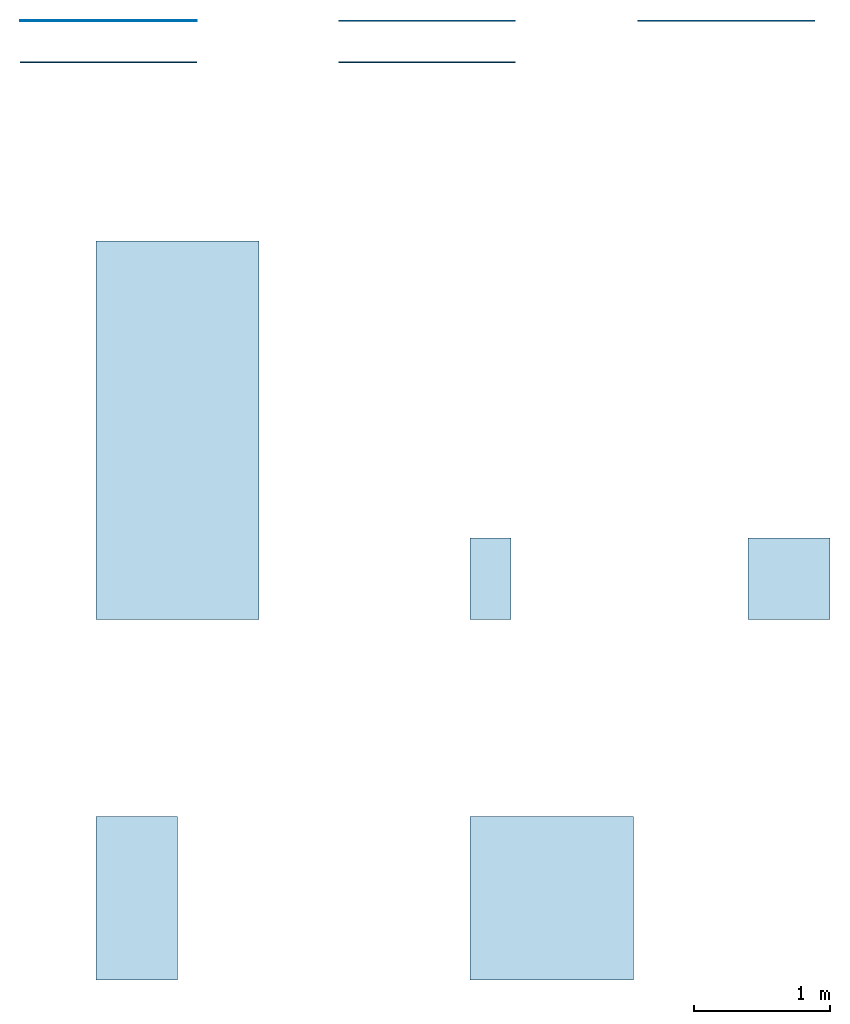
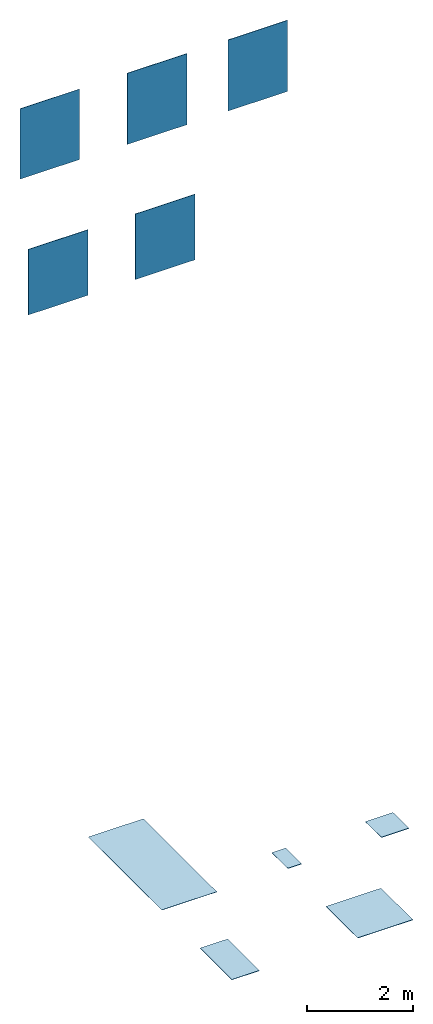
# One storey: 5 slabs, 5 walls.
"""IFC2X3 building model written with IfcOpenShell, lengths in millimetres."""

from ifc_helpers import new_model, entity, si_unit, converted_unit, derived_unit, direction, frame, frame_2d, origin, origin_2d_with_axis, place, context, subcontext, project, spatial, rectangle, extrude, material, layer, layer_set, layer_usage, type_object, element, save


model = new_model("IFC2X3")

# Units and contexts
model_context = context("Model", 3, precision=0.01, world=origin(), true_north=direction((6.12303176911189e-17, 1.0)))
body_context = subcontext(model_context, "Body", "Model", "MODEL_VIEW")
ifc_project = project(units=[si_unit("LENGTHUNIT", "METRE", prefix="MILLI"), si_unit("AREAUNIT", "SQUARE_METRE"), si_unit("VOLUMEUNIT", "CUBIC_METRE"), converted_unit("PLANEANGLEUNIT", "DEGREE", entity("IfcRatioMeasure", 0.0174532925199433), si_unit("PLANEANGLEUNIT", "RADIAN"), dimensions=[0, 0, 0, 0, 0, 0, 0]), si_unit("MASSUNIT", "GRAM", prefix="KILO"), derived_unit("MASSDENSITYUNIT", [(si_unit("MASSUNIT", "GRAM", prefix="KILO"), 1), (si_unit("LENGTHUNIT", "METRE"), -3)]), derived_unit("MOMENTOFINERTIAUNIT", [(si_unit("LENGTHUNIT", "METRE"), 4)]), si_unit("TIMEUNIT", "SECOND"), si_unit("FREQUENCYUNIT", "HERTZ"), si_unit("THERMODYNAMICTEMPERATUREUNIT", "DEGREE_CELSIUS"), derived_unit("THERMALTRANSMITTANCEUNIT", [(si_unit("MASSUNIT", "GRAM", prefix="KILO"), 1), (si_unit("THERMODYNAMICTEMPERATUREUNIT", "KELVIN"), -1), (si_unit("TIMEUNIT", "SECOND"), -3)]), derived_unit("VOLUMETRICFLOWRATEUNIT", [(si_unit("LENGTHUNIT", "METRE"), 3), (si_unit("TIMEUNIT", "SECOND"), -1)]), si_unit("ELECTRICCURRENTUNIT", "AMPERE"), si_unit("ELECTRICVOLTAGEUNIT", "VOLT"), si_unit("POWERUNIT", "WATT"), si_unit("FORCEUNIT", "NEWTON", prefix="KILO"), si_unit("ILLUMINANCEUNIT", "LUX"), si_unit("LUMINOUSFLUXUNIT", "LUMEN"), si_unit("LUMINOUSINTENSITYUNIT", "CANDELA"), derived_unit("USERDEFINED", [(si_unit("MASSUNIT", "GRAM", prefix="KILO"), -1), (si_unit("LENGTHUNIT", "METRE"), -2), (si_unit("TIMEUNIT", "SECOND"), 3), (si_unit("LUMINOUSFLUXUNIT", "LUMEN"), 1)]), derived_unit("LINEARVELOCITYUNIT", [(si_unit("LENGTHUNIT", "METRE"), 1), (si_unit("TIMEUNIT", "SECOND"), -1)]), si_unit("PRESSUREUNIT", "PASCAL"), derived_unit("USERDEFINED", [(si_unit("LENGTHUNIT", "METRE"), -2), (si_unit("MASSUNIT", "GRAM", prefix="KILO"), 1), (si_unit("TIMEUNIT", "SECOND"), -2)]), derived_unit("LINEARFORCEUNIT", [(si_unit("MASSUNIT", "GRAM", prefix="KILO"), 1), (si_unit("LENGTHUNIT", "METRE"), 1), (si_unit("TIMEUNIT", "SECOND"), -2), (si_unit("LENGTHUNIT", "METRE"), -1)]), derived_unit("PLANARFORCEUNIT", [(si_unit("MASSUNIT", "GRAM", prefix="KILO"), 1), (si_unit("LENGTHUNIT", "METRE"), 1), (si_unit("TIMEUNIT", "SECOND"), -2), (si_unit("LENGTHUNIT", "METRE"), -2)])], contexts=[model_context])

# Site, building, storey
site_placement = place(None, origin())
site = spatial("IfcSite", under=ifc_project, at=site_placement, Name="Default", CompositionType="ELEMENT")
building_placement = place(site_placement, origin())
building = spatial("IfcBuilding", under=site, at=building_placement, CompositionType="ELEMENT")
storey_placement = place(building_placement, origin())
storey = spatial("IfcBuildingStorey", under=building, at=storey_placement, Name="Level 0", CompositionType="ELEMENT", Elevation=0.0)

# Slabs
ifc_material_1 = material(Name="Creos-Coral-120x278 NB03")
ifc_layer_1 = layer(ifc_material_1, 6.0)
ifc_material_2 = material(Name="<Unnamed>")
ifc_layer_2 = layer(ifc_material_2, 1.0)
ifc_layer_set_1 = layer_set([ifc_layer_1, ifc_layer_2], Name="Floor:Floor_Tiles_Refin-Creos-Coral-120x278 NB03")
ifc_layer_usage_1 = layer_usage(ifc_layer_set_1, "AXIS3", "POSITIVE", 0.0)
slab_type_1 = type_object("IfcSlabType", Name="Floor:Floor_Tiles_Refin-Creos-Coral-120x278 NB03", PredefinedType="FLOOR", material=ifc_layer_set_1)
slab_1_placement = place(storey_placement, origin())
element("IfcSlab", 1, at=slab_1_placement, inside=storey, type_object=slab_type_1, material=ifc_layer_usage_1, Name="Floor:Floor_Tiles_Refin-Creos-Coral-120x278 NB03", ObjectType="Floor:Floor_Tiles_Refin-Creos-Coral-120x278 NB03", PredefinedType="FLOOR", context=body_context, shape_type="SweptSolid", body=[
    extrude(rectangle(XDim=2780.0, YDim=1200.0, at=origin_2d_with_axis()), frame((7074.37520617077, 5129.4623742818, 0.0), z_axis=(0.0, 0.0, -1.0), x_axis=(0.0, 1.0, 0.0)), (0.0, 0.0, 1.0), 7.0),
])
ifc_material_3 = material(Name="Creos-Coral-Soft-30x60 ND63")
ifc_layer_3 = layer(ifc_material_3, 9.0)
ifc_layer_4 = layer(ifc_material_2, 1.0)
ifc_layer_set_2 = layer_set([ifc_layer_3, ifc_layer_4], Name="Floor:Floor_Tiles_Refin-Creos-Coral-Soft-30x60 ND63")
ifc_layer_usage_2 = layer_usage(ifc_layer_set_2, "AXIS3", "POSITIVE", 0.0)
slab_type_2 = type_object("IfcSlabType", Name="Floor:Floor_Tiles_Refin-Creos-Coral-Soft-30x60 ND63", PredefinedType="FLOOR", material=ifc_layer_set_2)
slab_2_placement = place(storey_placement, origin())
element("IfcSlab", 2, at=slab_2_placement, inside=storey, type_object=slab_type_2, material=ifc_layer_usage_2, Name="Floor:Floor_Tiles_Refin-Creos-Coral-Soft-30x60 ND63", ObjectType="Floor:Floor_Tiles_Refin-Creos-Coral-Soft-30x60 ND63", PredefinedType="FLOOR", context=body_context, shape_type="SweptSolid", body=[
    extrude(rectangle(XDim=600.0, YDim=300.000000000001, at=origin_2d_with_axis()), frame((9374.37520617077, 4038.41920639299, 0.0), z_axis=(0.0, 0.0, -1.0), x_axis=(0.0, 1.0, 0.0)), (0.0, 0.0, 1.0), 10.0),
])
ifc_material_4 = material(Name="Creos-Coral-Soft-60x60 ND60")
ifc_layer_5 = layer(ifc_material_4, 9.0)
ifc_layer_6 = layer(ifc_material_2, 1.0)
ifc_layer_set_3 = layer_set([ifc_layer_5, ifc_layer_6], Name="Floor:Floor_Tiles_Refin-Creos-Coral-Soft-60x60 ND60")
ifc_layer_usage_3 = layer_usage(ifc_layer_set_3, "AXIS3", "POSITIVE", 0.0)
slab_type_3 = type_object("IfcSlabType", Name="Floor:Floor_Tiles_Refin-Creos-Coral-Soft-60x60 ND60", PredefinedType="FLOOR", material=ifc_layer_set_3)
slab_3_placement = place(storey_placement, origin())
element("IfcSlab", 3, at=slab_3_placement, inside=storey, type_object=slab_type_3, material=ifc_layer_usage_3, Name="Floor:Floor_Tiles_Refin-Creos-Coral-Soft-60x60 ND60", ObjectType="Floor:Floor_Tiles_Refin-Creos-Coral-Soft-60x60 ND60", PredefinedType="FLOOR", context=body_context, shape_type="SweptSolid", body=[
    extrude(rectangle(XDim=600.0, YDim=600.0, at=frame_2d((0.0, -1.08002495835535e-12), x_axis=(1.0, 0.0))), frame((11567.3924054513, 4038.41920639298, 0.0), z_axis=(0.0, 0.0, -1.0), x_axis=(0.0, 1.0, 0.0)), (0.0, 0.0, 1.0), 10.0),
])
ifc_material_5 = material(Name="Creos-Coral-Soft-60x120 ND54")
ifc_layer_7 = layer(ifc_material_5, 9.0)
ifc_layer_8 = layer(ifc_material_2, 1.0)
ifc_layer_set_4 = layer_set([ifc_layer_7, ifc_layer_8], Name="Floor:Floor_Tiles_Refin-Creos-Coral-Soft-60x120 ND54")
ifc_layer_usage_4 = layer_usage(ifc_layer_set_4, "AXIS3", "POSITIVE", 0.0)
slab_type_4 = type_object("IfcSlabType", Name="Floor:Floor_Tiles_Refin-Creos-Coral-Soft-60x120 ND54", PredefinedType="FLOOR", material=ifc_layer_set_4)
slab_4_placement = place(storey_placement, origin())
element("IfcSlab", 4, at=slab_4_placement, inside=storey, type_object=slab_type_4, material=ifc_layer_usage_4, Name="Floor:Floor_Tiles_Refin-Creos-Coral-Soft-60x120 ND54", ObjectType="Floor:Floor_Tiles_Refin-Creos-Coral-Soft-60x120 ND54", PredefinedType="FLOOR", context=body_context, shape_type="SweptSolid", body=[
    extrude(rectangle(XDim=1200.0, YDim=600.0, at=origin_2d_with_axis()), frame((6774.37520617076, 1689.46237428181, 0.0), z_axis=(0.0, 0.0, -1.0), x_axis=(0.0, 1.0, 0.0)), (0.0, 0.0, 1.0), 10.0),
])
ifc_material_6 = material(Name="Creos-Coral-Soft-120x120 ND57")
ifc_layer_9 = layer(ifc_material_6, 9.0)
ifc_layer_10 = layer(ifc_material_2, 1.0)
ifc_layer_set_5 = layer_set([ifc_layer_9, ifc_layer_10], Name="Floor:Floor_Tiles_Refin-Creos-Coral-Soft-120x120 ND57")
ifc_layer_usage_5 = layer_usage(ifc_layer_set_5, "AXIS3", "POSITIVE", 0.0)
slab_type_5 = type_object("IfcSlabType", Name="Floor:Floor_Tiles_Refin-Creos-Coral-Soft-120x120 ND57", PredefinedType="FLOOR", material=ifc_layer_set_5)
slab_5_placement = place(storey_placement, origin())
element("IfcSlab", 5, at=slab_5_placement, inside=storey, type_object=slab_type_5, material=ifc_layer_usage_5, Name="Floor:Floor_Tiles_Refin-Creos-Coral-Soft-120x120 ND57", ObjectType="Floor:Floor_Tiles_Refin-Creos-Coral-Soft-120x120 ND57", PredefinedType="FLOOR", context=body_context, shape_type="SweptSolid", body=[
    extrude(rectangle(XDim=1200.0, YDim=1200.0, at=origin_2d_with_axis()), frame((9824.37520617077, 1689.4623742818, 0.0), z_axis=(0.0, 0.0, -1.0), x_axis=(0.0, 1.0, 0.0)), (0.0, 0.0, 1.0), 10.0),
])

# Walls
ifc_layer_11 = layer(ifc_material_2, 1.0)
ifc_layer_12 = layer(ifc_material_3, 9.0)
ifc_layer_set_6 = layer_set([ifc_layer_11, ifc_layer_12], Name="Basic Wall:Wall_Tiles_Refin-Creos-Coral-Soft-30x60 ND63")
ifc_layer_usage_6 = layer_usage(ifc_layer_set_6, "AXIS2", "NEGATIVE", 5.0)
wall_type_1 = type_object("IfcWallType", Name="Basic Wall:Wall_Tiles_Refin-Creos-Coral-Soft-30x60 ND63", PredefinedType="STANDARD", material=ifc_layer_set_6)
wall_1_placement = place(storey_placement, frame((8257.37520617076, 8137.38386313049, 14387.6770443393)))
element("IfcWallStandardCase", 6, at=wall_1_placement, inside=storey, type_object=wall_type_1, material=ifc_layer_usage_6, Name="Basic Wall:Wall_Tiles_Refin-Creos-Coral-Soft-30x60 ND63", ObjectType="Basic Wall:Wall_Tiles_Refin-Creos-Coral-Soft-30x60 ND63", context=body_context, shape_type="SweptSolid", body=[
    extrude(rectangle(XDim=1300.0, YDim=9.99999999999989, at=frame_2d((650.0, 7.63833440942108e-14), x_axis=(-1.0, 0.0))), origin(), (0.0, 0.0, 1.0), 1641.74173522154),
])
ifc_layer_13 = layer(ifc_material_2, 1.0)
ifc_layer_14 = layer(ifc_material_4, 9.0)
ifc_layer_set_7 = layer_set([ifc_layer_13, ifc_layer_14], Name="Basic Wall:Wall_Tiles_Refin-Creos-Coral-Soft-60x60 ND60")
ifc_layer_usage_7 = layer_usage(ifc_layer_set_7, "AXIS2", "NEGATIVE", 5.0)
wall_type_2 = type_object("IfcWallType", Name="Basic Wall:Wall_Tiles_Refin-Creos-Coral-Soft-60x60 ND60", PredefinedType="STANDARD", material=ifc_layer_set_7)
wall_2_placement = place(storey_placement, frame((10457.3752061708, 8137.38386313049, 14387.6770443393)))
element("IfcWallStandardCase", 7, at=wall_2_placement, inside=storey, type_object=wall_type_2, material=ifc_layer_usage_7, Name="Basic Wall:Wall_Tiles_Refin-Creos-Coral-Soft-60x60 ND60", ObjectType="Basic Wall:Wall_Tiles_Refin-Creos-Coral-Soft-60x60 ND60", context=body_context, shape_type="SweptSolid", body=[
    extrude(rectangle(XDim=1300.0, YDim=9.99999999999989, at=frame_2d((650.0, 7.63833440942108e-14), x_axis=(-1.0, 0.0))), origin(), (0.0, 0.0, 1.0), 1641.74173522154),
])
ifc_layer_15 = layer(ifc_material_2, 1.0)
ifc_layer_16 = layer(ifc_material_1, 6.0)
ifc_layer_set_8 = layer_set([ifc_layer_15, ifc_layer_16], Name="Basic Wall:Wall_Tiles_Refin-Creos-Coral-120x278 NB03")
ifc_layer_usage_8 = layer_usage(ifc_layer_set_8, "AXIS2", "NEGATIVE", 3.5)
wall_type_3 = type_object("IfcWallType", Name="Basic Wall:Wall_Tiles_Refin-Creos-Coral-120x278 NB03", PredefinedType="STANDARD", material=ifc_layer_set_8)
wall_3_placement = place(storey_placement, frame((5917.37520617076, 8137.38386313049, 14403.726734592)))
element("IfcWallStandardCase", 8, at=wall_3_placement, inside=storey, type_object=wall_type_3, material=ifc_layer_usage_8, Name="Basic Wall:Wall_Tiles_Refin-Creos-Coral-120x278 NB03", ObjectType="Basic Wall:Wall_Tiles_Refin-Creos-Coral-120x278 NB03", context=body_context, shape_type="SweptSolid", body=[
    extrude(rectangle(XDim=1300.0, YDim=7.00000000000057, at=frame_2d((650.0, 7.57172102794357e-14), x_axis=(-1.0, 0.0))), origin(), (0.0, 0.0, 1.0), 1625.69204496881),
])
ifc_layer_17 = layer(ifc_material_2, 1.0)
ifc_layer_18 = layer(ifc_material_5, 9.0)
ifc_layer_set_9 = layer_set([ifc_layer_17, ifc_layer_18], Name="Basic Wall:Wall_Tiles_Refin-Creos-Coral-Soft-60x120 ND54")
ifc_layer_usage_9 = layer_usage(ifc_layer_set_9, "AXIS2", "NEGATIVE", 5.0)
wall_type_4 = type_object("IfcWallType", Name="Basic Wall:Wall_Tiles_Refin-Creos-Coral-Soft-60x120 ND54", PredefinedType="STANDARD", material=ifc_layer_set_9)
wall_4_placement = place(storey_placement, frame((5917.37520617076, 7832.38386313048, 11452.5436262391)))
element("IfcWallStandardCase", 9, at=wall_4_placement, inside=storey, type_object=wall_type_4, material=ifc_layer_usage_9, Name="Basic Wall:Wall_Tiles_Refin-Creos-Coral-Soft-60x120 ND54", ObjectType="Basic Wall:Wall_Tiles_Refin-Creos-Coral-Soft-60x120 ND54", context=body_context, shape_type="SweptSolid", body=[
    extrude(rectangle(XDim=1300.0, YDim=9.99999999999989, at=frame_2d((650.0, 0.0), x_axis=(-1.0, 0.0))), origin(), (0.0, 0.0, 1.0), 1513.19855655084),
])
ifc_layer_19 = layer(ifc_material_2, 1.0)
ifc_layer_20 = layer(ifc_material_6, 9.0)
ifc_layer_set_10 = layer_set([ifc_layer_19, ifc_layer_20], Name="Basic Wall:Wall_Tiles_Refin-Creos-Coral-Soft-120x120 ND57")
ifc_layer_usage_10 = layer_usage(ifc_layer_set_10, "AXIS2", "NEGATIVE", 5.0)
wall_type_5 = type_object("IfcWallType", Name="Basic Wall:Wall_Tiles_Refin-Creos-Coral-Soft-120x120 ND57", PredefinedType="STANDARD", material=ifc_layer_set_10)
wall_5_placement = place(storey_placement, frame((8257.37520617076, 7832.38386313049, 11452.5436262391)))
element("IfcWallStandardCase", 10, at=wall_5_placement, inside=storey, type_object=wall_type_5, material=ifc_layer_usage_10, Name="Basic Wall:Wall_Tiles_Refin-Creos-Coral-Soft-120x120 ND57", ObjectType="Basic Wall:Wall_Tiles_Refin-Creos-Coral-Soft-120x120 ND57", context=body_context, shape_type="SweptSolid", body=[
    extrude(rectangle(XDim=1300.0, YDim=9.99999999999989, at=frame_2d((650.0, 0.0), x_axis=(-1.0, 0.0))), origin(), (0.0, 0.0, 1.0), 1513.19855655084),
])

save(model, "model.ifc")
